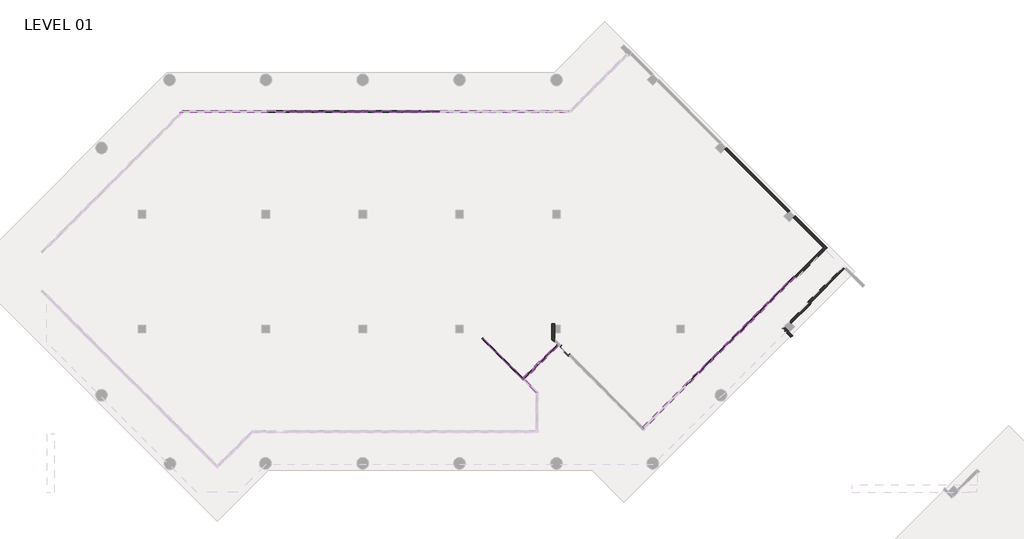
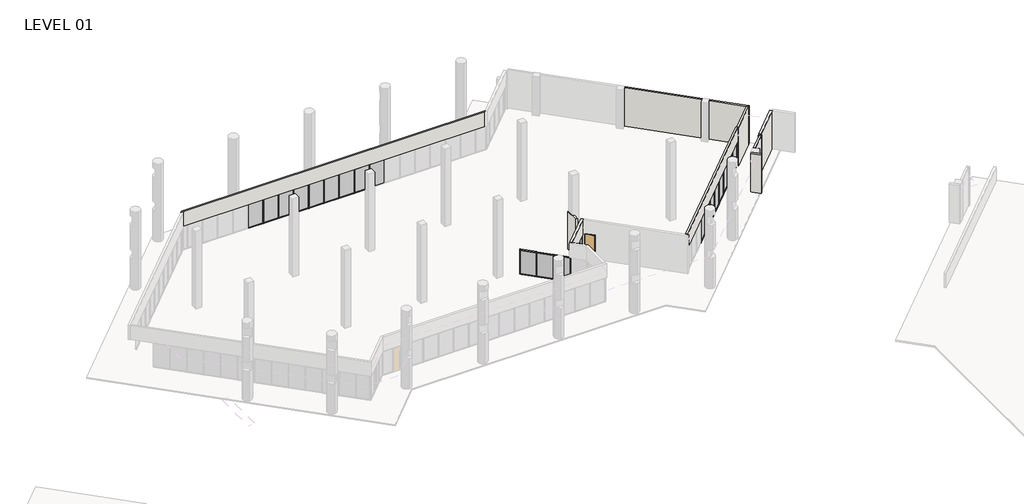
# One storey, part 13 of 24: 70 members, 23 plates, 11 walls, 2 doors.
"""IFC4 building model written with IfcOpenShell, lengths in millimetres."""

from ifc_helpers import new_model, si_unit, frame, origin, origin_with_axes, place, context, project, spatial, polyline, outline, extrude, faceted_brep, transform, mapped, element, save
from components import curtain_wall_dbl_glass_curtain_wall_dbl_glass_60f99fc0, door_25aa1bd3, member_5247f267, member_e44af9ab, member_800970d4, member_cca1f9e6, member_67d17f7f, member_d5560c68, member_35eb671e, member_74c9df78, plate_67294edd, plate_aaac5d3d, plate_5a14c350, plate_4fb64caf, plate_748a28b9, plate_d12b1ad5, plate_e3fa2cc7

model = new_model("IFC4")

# Units and contexts
model_context = context("Model", 3, world=origin())
ifc_project = project(units=[si_unit("LENGTHUNIT", "METRE", prefix="MILLI")], contexts=[model_context])

# Site, building, storey
site = spatial("IfcSite", under=ifc_project)
building = spatial("IfcBuilding", under=site)
storey = spatial("IfcBuildingStorey", under=building, Name="LEVEL 01", Elevation=0.0)

# Doors
placement = place(None, origin())
curtain_wall_dbl_glass_curtain_wall_dbl_glass_shape = curtain_wall_dbl_glass_curtain_wall_dbl_glass_60f99fc0(model_context)
element("IfcDoor", 1, ObjectType="Curtain Wall Dbl Glass : Curtain Wall Dbl Glass", at=placement, inside=storey, context=model_context, shape_type="MappedRepresentation", body=[
    mapped(curtain_wall_dbl_glass_curtain_wall_dbl_glass_shape, transform((39694.6589513, 97112.6227253, 0.0), x_axis=(0.7071067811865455, 0.7071067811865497, 0.0), y_axis=(-0.7071067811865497, 0.7071067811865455, 0.0), z_axis=(0.0, 0.0, 1.0))),
])
door_shape = door_25aa1bd3(model_context)
element("IfcDoor", 2, ObjectType="Single Flush-Full Flush-FF : 3'-0\" X 8'-6\"", at=placement, inside=storey, context=model_context, shape_type="MappedRepresentation", body=[
    mapped(door_shape, transform((41911.4780415, 98331.3349613, 0.0), x_axis=(0.7071067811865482, -0.7071067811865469, 0.0), y_axis=(0.7071067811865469, 0.7071067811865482, 0.0), z_axis=(0.0, 0.0, 1.0))),
])

# Members
member_shape = member_5247f267(model_context)
element("IfcMember", 3, ObjectType="Rectangular Mullion : 2\" x 4.5\" rectangular", at=placement, inside=storey, context=model_context, shape_type="MappedRepresentation", body=[
    mapped(member_shape, transform((29038.55, 117137.1023049, 0.0), x_axis=(0.0, 0.0, -1.0), y_axis=(0.0, 1.0, 0.0), z_axis=(1.0, 0.0, 0.0))),
])
element("IfcMember", 4, ObjectType="Rectangular Mullion : 2\" x 4.5\" rectangular", at=placement, inside=storey, context=model_context, shape_type="MappedRepresentation", body=[
    mapped(member_shape, transform((27514.55, 117137.1023049, 0.0), x_axis=(0.0, 0.0, -1.0), y_axis=(0.0, 1.0, 0.0), z_axis=(1.0, 0.0, 0.0))),
])
element("IfcMember", 5, ObjectType="Rectangular Mullion : 2\" x 4.5\" rectangular", at=placement, inside=storey, context=model_context, shape_type="MappedRepresentation", body=[
    mapped(member_shape, transform((24466.55, 117137.1023049, 0.0), x_axis=(0.0, 0.0, -1.0), y_axis=(0.0, 1.0, 0.0), z_axis=(1.0, 0.0, 0.0))),
])
element("IfcMember", 6, ObjectType="Rectangular Mullion : 2\" x 4.5\" rectangular", at=placement, inside=storey, context=model_context, shape_type="MappedRepresentation", body=[
    mapped(member_shape, transform((21418.55, 117137.1023049, 0.0), x_axis=(0.0, 0.0, -1.0), y_axis=(0.0, 1.0, 0.0), z_axis=(1.0, 0.0, 0.0))),
])
element("IfcMember", 7, ObjectType="Rectangular Mullion : 2\" x 4.5\" rectangular", at=placement, inside=storey, context=model_context, shape_type="MappedRepresentation", body=[
    mapped(member_shape, transform((58879.5979736, 103023.4447759, 0.0), x_axis=(0.0, 0.0, -1.0), y_axis=(-0.7071067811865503, 0.7071067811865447, 0.0), z_axis=(0.7071067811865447, 0.7071067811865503, 0.0))),
])
element("IfcMember", 8, ObjectType="Rectangular Mullion : 2\" x 4.5\" rectangular", at=placement, inside=storey, context=model_context, shape_type="MappedRepresentation", body=[
    mapped(member_shape, transform((55646.7353735, 99790.5821758, 0.0), x_axis=(0.0, 0.0, -1.0), y_axis=(-0.7071067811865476, 0.7071067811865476, 0.0), z_axis=(0.7071067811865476, 0.7071067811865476, 0.0))),
])
element("IfcMember", 9, ObjectType="Rectangular Mullion : 2\" x 4.5\" rectangular", at=placement, inside=storey, context=model_context, shape_type="MappedRepresentation", body=[
    mapped(member_shape, transform((53491.5035079, 97635.3503102, 0.0), x_axis=(0.0, 0.0, -1.0), y_axis=(-0.7071067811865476, 0.7071067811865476, 0.0), z_axis=(0.7071067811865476, 0.7071067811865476, 0.0))),
])
element("IfcMember", 10, ObjectType="Rectangular Mullion : 2\" x 4.5\" rectangular", at=placement, inside=storey, context=model_context, shape_type="MappedRepresentation", body=[
    mapped(member_shape, transform((52413.887575, 96557.7343774, 0.0), x_axis=(0.0, 0.0, -1.0), y_axis=(-0.7071067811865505, 0.7071067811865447, 0.0), z_axis=(0.7071067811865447, 0.7071067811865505, 0.0))),
])
element("IfcMember", 11, ObjectType="Rectangular Mullion : 2\" x 4.5\" rectangular", at=placement, inside=storey, context=model_context, shape_type="MappedRepresentation", body=[
    mapped(member_shape, transform((30562.55, 117137.1023049, 0.0), x_axis=(0.0, 0.0, -1.0), y_axis=(0.0, 1.0, 0.0), z_axis=(1.0, 0.0, 0.0))),
])
element("IfcMember", 12, ObjectType="Rectangular Mullion : 2\" x 4.5\" rectangular", at=placement, inside=storey, context=model_context, shape_type="MappedRepresentation", body=[
    mapped(member_shape, transform((25990.55, 117137.1023049, 0.0), x_axis=(0.0, 0.0, -1.0), y_axis=(0.0, 1.0, 0.0), z_axis=(1.0, 0.0, 0.0))),
])
element("IfcMember", 13, ObjectType="Rectangular Mullion : 2\" x 4.5\" rectangular", at=placement, inside=storey, context=model_context, shape_type="MappedRepresentation", body=[
    mapped(member_shape, transform((22942.55, 117137.1023049, 0.0), x_axis=(0.0, 0.0, -1.0), y_axis=(0.0, 1.0, 0.0), z_axis=(1.0, 0.0, 0.0))),
])
element("IfcMember", 14, ObjectType="Rectangular Mullion : 2\" x 4.5\" rectangular", at=placement, inside=storey, context=model_context, shape_type="MappedRepresentation", body=[
    mapped(member_shape, transform((19894.55, 117137.1023049, 0.0), x_axis=(0.0, 0.0, -1.0), y_axis=(0.0, 1.0, 0.0), z_axis=(1.0, 0.0, 0.0))),
])
element("IfcMember", 15, ObjectType="Rectangular Mullion : 2\" x 4.5\" rectangular", at=placement, inside=storey, context=model_context, shape_type="MappedRepresentation", body=[
    mapped(member_shape, transform((57801.9672391, 101945.8140414, 0.0), x_axis=(0.0, 0.0, -1.0), y_axis=(-0.7071067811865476, 0.7071067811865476, 0.0), z_axis=(0.7071067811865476, 0.7071067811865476, 0.0))),
])
element("IfcMember", 16, ObjectType="Rectangular Mullion : 2\" x 4.5\" rectangular", at=placement, inside=storey, context=model_context, shape_type="MappedRepresentation", body=[
    mapped(member_shape, transform((54569.1194407, 98712.966243, 0.0), x_axis=(0.0, 0.0, -1.0), y_axis=(-0.7071067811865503, 0.7071067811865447, 0.0), z_axis=(0.7071067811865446, 0.7071067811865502, 0.0))),
])
element("IfcMember", 17, ObjectType="Rectangular Mullion : 2\" x 4.5\" rectangular", at=placement, inside=storey, context=model_context, shape_type="MappedRepresentation", body=[
    mapped(member_shape, transform((56724.3513063, 100868.1981086, 0.0), x_axis=(0.0, 0.0, -1.0), y_axis=(-0.7071067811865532, 0.7071067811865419, 0.0), z_axis=(0.7071067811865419, 0.7071067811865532, 0.0))),
])
element("IfcMember", 18, ObjectType="Rectangular Mullion : 2\" x 4.5\" rectangular", at=placement, inside=storey, context=model_context, shape_type="MappedRepresentation", body=[
    mapped(member_shape, transform((38636.3587532, 96090.2435517, 0.0), x_axis=(0.0, 0.0, -1.0), y_axis=(0.7071067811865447, 0.7071067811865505, 0.0), z_axis=(0.7071067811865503, -0.7071067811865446, 0.0))),
])
element("IfcMember", 19, ObjectType="Rectangular Mullion : 2\" x 4.5\" rectangular", at=placement, inside=storey, context=model_context, shape_type="MappedRepresentation", body=[
    mapped(member_shape, transform((37558.7280187, 97167.8742862, 0.0), x_axis=(0.0, 0.0, -1.0), y_axis=(0.7071067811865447, 0.7071067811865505, 0.0), z_axis=(0.7071067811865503, -0.7071067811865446, 0.0))),
])
element("IfcMember", 20, ObjectType="Rectangular Mullion : 2\" x 4.5\" rectangular", at=placement, inside=storey, context=model_context, shape_type="MappedRepresentation", body=[
    mapped(member_shape, transform((29089.35, 117137.1023049, 2590.8), x_axis=(0.0, 0.0, 1.0), y_axis=(0.0, 1.0, 0.0), z_axis=(-1.0, 0.0, 0.0))),
])
element("IfcMember", 21, ObjectType="Rectangular Mullion : 2\" x 4.5\" rectangular", at=placement, inside=storey, context=model_context, shape_type="MappedRepresentation", body=[
    mapped(member_shape, transform((27565.35, 117137.1023049, 2590.8), x_axis=(0.0, 0.0, 1.0), y_axis=(0.0, 1.0, 0.0), z_axis=(-1.0, 0.0, 0.0))),
])
element("IfcMember", 22, ObjectType="Rectangular Mullion : 2\" x 4.5\" rectangular", at=placement, inside=storey, context=model_context, shape_type="MappedRepresentation", body=[
    mapped(member_shape, transform((24517.35, 117137.1023049, 2590.8), x_axis=(0.0, 0.0, 1.0), y_axis=(0.0, 1.0, 0.0), z_axis=(-1.0, 0.0, 0.0))),
])
element("IfcMember", 23, ObjectType="Rectangular Mullion : 2\" x 4.5\" rectangular", at=placement, inside=storey, context=model_context, shape_type="MappedRepresentation", body=[
    mapped(member_shape, transform((21469.35, 117137.1023049, 2590.8), x_axis=(0.0, 0.0, 1.0), y_axis=(0.0, 1.0, 0.0), z_axis=(-1.0, 0.0, 0.0))),
])
element("IfcMember", 24, ObjectType="Rectangular Mullion : 2\" x 4.5\" rectangular", at=placement, inside=storey, context=model_context, shape_type="MappedRepresentation", body=[
    mapped(member_shape, transform((55682.6563979, 99826.5032003, 2590.8), x_axis=(0.0, 0.0, 1.0), y_axis=(-0.7071067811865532, 0.7071067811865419, 0.0), z_axis=(-0.7071067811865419, -0.7071067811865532, 0.0))),
])
element("IfcMember", 25, ObjectType="Rectangular Mullion : 2\" x 4.5\" rectangular", at=placement, inside=storey, context=model_context, shape_type="MappedRepresentation", body=[
    mapped(member_shape, transform((53527.4245323, 97671.2713347, 2590.8), x_axis=(0.0, 0.0, 1.0), y_axis=(-0.7071067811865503, 0.7071067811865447, 0.0), z_axis=(-0.7071067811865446, -0.7071067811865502, 0.0))),
])
element("IfcMember", 26, ObjectType="Rectangular Mullion : 2\" x 4.5\" rectangular", at=placement, inside=storey, context=model_context, shape_type="MappedRepresentation", body=[
    mapped(member_shape, transform((52449.8085995, 96593.6554019, 2590.8), x_axis=(0.0, 0.0, 1.0), y_axis=(-0.7071067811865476, 0.7071067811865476, 0.0), z_axis=(-0.7071067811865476, -0.7071067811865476, 0.0))),
])
element("IfcMember", 27, ObjectType="Rectangular Mullion : 2\" x 4.5\" rectangular", at=placement, inside=storey, context=model_context, shape_type="MappedRepresentation", body=[
    mapped(member_shape, transform((30613.35, 117137.1023049, 2590.8), x_axis=(0.0, 0.0, 1.0), y_axis=(0.0, 1.0, 0.0), z_axis=(-1.0, 0.0, 0.0))),
])
element("IfcMember", 28, ObjectType="Rectangular Mullion : 2\" x 4.5\" rectangular", at=placement, inside=storey, context=model_context, shape_type="MappedRepresentation", body=[
    mapped(member_shape, transform((26041.35, 117137.1023049, 2590.8), x_axis=(0.0, 0.0, 1.0), y_axis=(0.0, 1.0, 0.0), z_axis=(-1.0, 0.0, 0.0))),
])
element("IfcMember", 29, ObjectType="Rectangular Mullion : 2\" x 4.5\" rectangular", at=placement, inside=storey, context=model_context, shape_type="MappedRepresentation", body=[
    mapped(member_shape, transform((22993.35, 117137.1023049, 2590.8), x_axis=(0.0, 0.0, 1.0), y_axis=(0.0, 1.0, 0.0), z_axis=(-1.0, 0.0, 0.0))),
])
element("IfcMember", 30, ObjectType="Rectangular Mullion : 2\" x 4.5\" rectangular", at=placement, inside=storey, context=model_context, shape_type="MappedRepresentation", body=[
    mapped(member_shape, transform((19945.35, 117137.1023049, 2590.8), x_axis=(0.0, 0.0, 1.0), y_axis=(0.0, 1.0, 0.0), z_axis=(-1.0, 0.0, 0.0))),
])
element("IfcMember", 31, ObjectType="Rectangular Mullion : 2\" x 4.5\" rectangular", at=placement, inside=storey, context=model_context, shape_type="MappedRepresentation", body=[
    mapped(member_shape, transform((57837.8882635, 101981.7350659, 2590.8), x_axis=(0.0, 0.0, 1.0), y_axis=(-0.7071067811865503, 0.7071067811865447, 0.0), z_axis=(-0.7071067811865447, -0.7071067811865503, 0.0))),
])
element("IfcMember", 32, ObjectType="Rectangular Mullion : 2\" x 4.5\" rectangular", at=placement, inside=storey, context=model_context, shape_type="MappedRepresentation", body=[
    mapped(member_shape, transform((54605.0404651, 98748.8872675, 2590.8), x_axis=(0.0, 0.0, 1.0), y_axis=(-0.7071067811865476, 0.7071067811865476, 0.0), z_axis=(-0.7071067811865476, -0.7071067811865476, 0.0))),
])
element("IfcMember", 33, ObjectType="Rectangular Mullion : 2\" x 4.5\" rectangular", at=placement, inside=storey, context=model_context, shape_type="MappedRepresentation", body=[
    mapped(member_shape, transform((56760.2723307, 100904.1191331, 2590.8), x_axis=(0.0, 0.0, 1.0), y_axis=(-0.7071067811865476, 0.7071067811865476, 0.0), z_axis=(-0.7071067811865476, -0.7071067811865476, 0.0))),
])
element("IfcMember", 34, ObjectType="Rectangular Mullion : 2\" x 4.5\" rectangular", at=placement, inside=storey, context=model_context, shape_type="MappedRepresentation", body=[
    mapped(member_shape, transform((36517.0183087, 98209.5839963, 2590.8), x_axis=(0.0, 0.0, 1.0), y_axis=(0.7071067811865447, 0.7071067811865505, 0.0), z_axis=(-0.7071067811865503, 0.7071067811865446, 0.0))),
])
element("IfcMember", 35, ObjectType="Rectangular Mullion : 2\" x 4.5\" rectangular", at=placement, inside=storey, context=model_context, shape_type="MappedRepresentation", body=[
    mapped(member_shape, transform((37594.6490432, 97131.9532617, 2590.8), x_axis=(0.0, 0.0, 1.0), y_axis=(0.7071067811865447, 0.7071067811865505, 0.0), z_axis=(-0.7071067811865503, 0.7071067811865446, 0.0))),
])
member_2_shape = member_e44af9ab(model_context)
element("IfcMember", 36, ObjectType="Rectangular Mullion : 2\" x 4.5\" rectangular", at=placement, inside=storey, context=model_context, shape_type="MappedRepresentation", body=[
    mapped(member_2_shape, transform((29063.95, 117137.1023049, 0.0), x_axis=(-1.0, 0.0, 0.0), y_axis=(0.0, 1.0, 0.0), z_axis=(0.0, 0.0, -1.0))),
])
element("IfcMember", 37, ObjectType="Rectangular Mullion : 2\" x 4.5\" rectangular", at=placement, inside=storey, context=model_context, shape_type="MappedRepresentation", body=[
    mapped(member_2_shape, transform((27539.95, 117137.1023049, 0.0), x_axis=(-1.0, 0.0, 0.0), y_axis=(0.0, 1.0, 0.0), z_axis=(0.0, 0.0, -1.0))),
])
element("IfcMember", 38, ObjectType="Rectangular Mullion : 2\" x 4.5\" rectangular", at=placement, inside=storey, context=model_context, shape_type="MappedRepresentation", body=[
    mapped(member_2_shape, transform((24491.95, 117137.1023049, 0.0), x_axis=(-1.0, 0.0, 0.0), y_axis=(0.0, 1.0, 0.0), z_axis=(0.0, 0.0, -1.0))),
])
element("IfcMember", 39, ObjectType="Rectangular Mullion : 2\" x 4.5\" rectangular", at=placement, inside=storey, context=model_context, shape_type="MappedRepresentation", body=[
    mapped(member_2_shape, transform((21443.95, 117137.1023049, 0.0), x_axis=(-1.0, 0.0, 0.0), y_axis=(0.0, 1.0, 0.0), z_axis=(0.0, 0.0, -1.0))),
])
element("IfcMember", 40, ObjectType="Rectangular Mullion : 2\" x 4.5\" rectangular", at=placement, inside=storey, context=model_context, shape_type="MappedRepresentation", body=[
    mapped(member_2_shape, transform((58897.5584858, 103041.4052881, 0.0), x_axis=(-0.7071067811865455, -0.7071067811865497, 0.0), y_axis=(-0.7071067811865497, 0.7071067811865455, 0.0), z_axis=(0.0, 0.0, -1.0))),
])
element("IfcMember", 41, ObjectType="Rectangular Mullion : 2\" x 4.5\" rectangular", at=placement, inside=storey, context=model_context, shape_type="MappedRepresentation", body=[
    mapped(member_2_shape, transform((55664.6958857, 99808.542688, 0.0), x_axis=(-0.7071067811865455, -0.7071067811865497, 0.0), y_axis=(-0.7071067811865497, 0.7071067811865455, 0.0), z_axis=(0.0, 0.0, -1.0))),
])
element("IfcMember", 42, ObjectType="Rectangular Mullion : 2\" x 4.5\" rectangular", at=placement, inside=storey, context=model_context, shape_type="MappedRepresentation", body=[
    mapped(member_2_shape, transform((53509.4640201, 97653.3108224, 0.0), x_axis=(-0.7071067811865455, -0.7071067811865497, 0.0), y_axis=(-0.7071067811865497, 0.7071067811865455, 0.0), z_axis=(0.0, 0.0, -1.0))),
])
element("IfcMember", 43, ObjectType="Rectangular Mullion : 2\" x 4.5\" rectangular", at=placement, inside=storey, context=model_context, shape_type="MappedRepresentation", body=[
    mapped(member_2_shape, transform((52431.8480873, 96575.6948896, 0.0), x_axis=(-0.7071067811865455, -0.7071067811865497, 0.0), y_axis=(-0.7071067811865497, 0.7071067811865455, 0.0), z_axis=(0.0, 0.0, -1.0))),
])
element("IfcMember", 44, ObjectType="Rectangular Mullion : 2\" x 4.5\" rectangular", at=placement, inside=storey, context=model_context, shape_type="MappedRepresentation", body=[
    mapped(member_2_shape, transform((30587.95, 117137.1023049, 0.0), x_axis=(-1.0, 0.0, 0.0), y_axis=(0.0, 1.0, 0.0), z_axis=(0.0, 0.0, -1.0))),
])
element("IfcMember", 45, ObjectType="Rectangular Mullion : 2\" x 4.5\" rectangular", at=placement, inside=storey, context=model_context, shape_type="MappedRepresentation", body=[
    mapped(member_2_shape, transform((26015.95, 117137.1023049, 0.0), x_axis=(-1.0, 0.0, 0.0), y_axis=(0.0, 1.0, 0.0), z_axis=(0.0, 0.0, -1.0))),
])
element("IfcMember", 46, ObjectType="Rectangular Mullion : 2\" x 4.5\" rectangular", at=placement, inside=storey, context=model_context, shape_type="MappedRepresentation", body=[
    mapped(member_2_shape, transform((22967.95, 117137.1023049, 0.0), x_axis=(-1.0, 0.0, 0.0), y_axis=(0.0, 1.0, 0.0), z_axis=(0.0, 0.0, -1.0))),
])
element("IfcMember", 47, ObjectType="Rectangular Mullion : 2\" x 4.5\" rectangular", at=placement, inside=storey, context=model_context, shape_type="MappedRepresentation", body=[
    mapped(member_2_shape, transform((19919.95, 117137.1023049, 0.0), x_axis=(-1.0, 0.0, 0.0), y_axis=(0.0, 1.0, 0.0), z_axis=(0.0, 0.0, -1.0))),
])
element("IfcMember", 48, ObjectType="Rectangular Mullion : 2\" x 4.5\" rectangular", at=placement, inside=storey, context=model_context, shape_type="MappedRepresentation", body=[
    mapped(member_2_shape, transform((57819.9277513, 101963.7745536, 0.0), x_axis=(-0.7071067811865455, -0.7071067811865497, 0.0), y_axis=(-0.7071067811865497, 0.7071067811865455, 0.0), z_axis=(0.0, 0.0, -1.0))),
])
element("IfcMember", 49, ObjectType="Rectangular Mullion : 2\" x 4.5\" rectangular", at=placement, inside=storey, context=model_context, shape_type="MappedRepresentation", body=[
    mapped(member_2_shape, transform((54587.0799529, 98730.9267552, 0.0), x_axis=(-0.7071067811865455, -0.7071067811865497, 0.0), y_axis=(-0.7071067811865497, 0.7071067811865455, 0.0), z_axis=(0.0, 0.0, -1.0))),
])
element("IfcMember", 50, ObjectType="Rectangular Mullion : 2\" x 4.5\" rectangular", at=placement, inside=storey, context=model_context, shape_type="MappedRepresentation", body=[
    mapped(member_2_shape, transform((56742.3118185, 100886.1586208, 0.0), x_axis=(-0.7071067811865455, -0.7071067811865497, 0.0), y_axis=(-0.7071067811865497, 0.7071067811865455, 0.0), z_axis=(0.0, 0.0, -1.0))),
])
element("IfcMember", 51, ObjectType="Rectangular Mullion : 2\" x 4.5\" rectangular", at=placement, inside=storey, context=model_context, shape_type="MappedRepresentation", body=[
    mapped(member_2_shape, transform((38654.3192655, 96072.2830395, 0.0), x_axis=(-0.7071067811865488, 0.7071067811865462, 0.0), y_axis=(0.7071067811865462, 0.7071067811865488, 0.0), z_axis=(0.0, 0.0, -1.0))),
])
element("IfcMember", 52, ObjectType="Rectangular Mullion : 2\" x 4.5\" rectangular", at=placement, inside=storey, context=model_context, shape_type="MappedRepresentation", body=[
    mapped(member_2_shape, transform((36499.0577964, 98227.5445085, 0.0), x_axis=(-0.7071067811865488, 0.7071067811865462, 0.0), y_axis=(0.7071067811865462, 0.7071067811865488, 0.0), z_axis=(0.0, 0.0, -1.0))),
])
element("IfcMember", 53, ObjectType="Rectangular Mullion : 2\" x 4.5\" rectangular", at=placement, inside=storey, context=model_context, shape_type="MappedRepresentation", body=[
    mapped(member_2_shape, transform((37576.6885309, 97149.913774, 0.0), x_axis=(-0.7071067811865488, 0.7071067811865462, 0.0), y_axis=(0.7071067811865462, 0.7071067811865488, 0.0), z_axis=(0.0, 0.0, -1.0))),
])
element("IfcMember", 54, ObjectType="Rectangular Mullion : 2\" x 4.5\" rectangular", at=placement, inside=storey, context=model_context, shape_type="MappedRepresentation", body=[
    mapped(member_2_shape, transform((39371.6614109, 96789.6251848, 0.0), x_axis=(0.7071067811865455, 0.7071067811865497, 0.0), y_axis=(0.7071067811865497, -0.7071067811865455, 0.0), z_axis=(0.0, 0.0, -1.0))),
])
element("IfcMember", 55, ObjectType="Rectangular Mullion : 2\" x 4.5\" rectangular", at=placement, inside=storey, context=model_context, shape_type="MappedRepresentation", body=[
    mapped(member_2_shape, transform((40664.8182923, 98082.7820663, 0.0), x_axis=(0.7071067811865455, 0.7071067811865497, 0.0), y_axis=(0.7071067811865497, -0.7071067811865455, 0.0), z_axis=(0.0, 0.0, -1.0))),
])
member_3_shape = member_800970d4(model_context)
element("IfcMember", 56, ObjectType="Rectangular Mullion : 2\" x 4.5\" rectangular", at=placement, inside=storey, context=model_context, shape_type="MappedRepresentation", body=[
    mapped(member_3_shape, transform((35421.4270619, 99305.175243, 0.0), x_axis=(-0.7071067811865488, 0.7071067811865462, 0.0), y_axis=(0.7071067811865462, 0.7071067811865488, 0.0), z_axis=(0.0, 0.0, -1.0))),
])
element("IfcMember", 57, ObjectType="Rectangular Mullion : 2\" x 4.5\" rectangular", at=placement, inside=storey, context=model_context, shape_type="MappedRepresentation", body=[
    mapped(member_3_shape, transform((41340.5825654, 98758.5463394, 0.0), x_axis=(0.7071067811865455, 0.7071067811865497, 0.0), y_axis=(0.7071067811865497, -0.7071067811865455, 0.0), z_axis=(0.0, 0.0, -1.0))),
])
element("IfcMember", 58, ObjectType="Rectangular Mullion : 2\" x 4.5\" rectangular", at=placement, inside=storey, context=model_context, shape_type="MappedRepresentation", body=[
    mapped(member_3_shape, transform((59975.263229, 104119.1100313, 2590.8), x_axis=(0.7071067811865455, 0.7071067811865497, 0.0), y_axis=(-0.7071067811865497, 0.7071067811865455, 0.0), z_axis=(0.0, 0.0, 1.0))),
])
element("IfcMember", 59, ObjectType="Rectangular Mullion : 2\" x 4.5\" rectangular", at=placement, inside=storey, context=model_context, shape_type="MappedRepresentation", body=[
    mapped(member_3_shape, transform((38694.730418, 96112.694192, 2590.8), x_axis=(-0.7071067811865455, -0.7071067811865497, 0.0), y_axis=(0.7071067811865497, -0.7071067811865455, 0.0), z_axis=(0.0, 0.0, 1.0))),
])
member_4_shape = member_cca1f9e6(model_context)
element("IfcMember", 60, ObjectType="Rectangular Mullion : 2\" x 4.5\" rectangular", at=placement, inside=storey, context=model_context, shape_type="MappedRepresentation", body=[
    mapped(member_4_shape, transform((58915.5189981, 103059.3658004, 2590.8), x_axis=(0.0, 0.0, 1.0), y_axis=(-0.7071067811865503, 0.7071067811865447, 0.0), z_axis=(-0.7071067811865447, -0.7071067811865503, 0.0))),
])
element("IfcMember", 61, ObjectType="Rectangular Mullion : 2\" x 4.5\" rectangular", at=placement, inside=storey, context=model_context, shape_type="MappedRepresentation", body=[
    mapped(member_4_shape, transform((35457.3480864, 99269.2542186, 2590.8), x_axis=(0.0, 0.0, 1.0), y_axis=(0.7071067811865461, 0.7071067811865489, 0.0), z_axis=(-0.7071067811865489, 0.7071067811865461, 0.0))),
])
element("IfcMember", 62, ObjectType="Rectangular Mullion : 2\" x 4.5\" rectangular", at=placement, inside=storey, context=model_context, shape_type="MappedRepresentation", body=[
    mapped(member_4_shape, transform((38672.2797777, 96054.3225272, 2590.8), x_axis=(0.0, 0.0, 1.0), y_axis=(0.7071067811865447, 0.7071067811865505, 0.0), z_axis=(-0.7071067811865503, 0.7071067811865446, 0.0))),
])
element("IfcMember", 63, ObjectType="Rectangular Mullion : 2\" x 4.5\" rectangular", at=placement, inside=storey, context=model_context, shape_type="MappedRepresentation", body=[
    mapped(member_4_shape, transform((59939.3422045, 104083.1890068, 0.0), x_axis=(0.0, 0.0, -1.0), y_axis=(-0.7071067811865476, 0.7071067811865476, 0.0), z_axis=(0.7071067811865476, 0.7071067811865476, 0.0))),
])
element("IfcMember", 64, ObjectType="Rectangular Mullion : 2\" x 4.5\" rectangular", at=placement, inside=storey, context=model_context, shape_type="MappedRepresentation", body=[
    mapped(member_4_shape, transform((36481.0972842, 98245.5050208, 0.0), x_axis=(0.0, 0.0, -1.0), y_axis=(0.7071067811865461, 0.7071067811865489, 0.0), z_axis=(0.7071067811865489, -0.7071067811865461, 0.0))),
])
member_5_shape = member_67d17f7f(model_context)
element("IfcMember", 65, ObjectType="Rectangular Mullion : 2\" x 4.5\" rectangular", at=placement, inside=storey, context=model_context, shape_type="MappedRepresentation", body=[
    mapped(member_5_shape, transform((41304.6615409, 98722.6253149, 2590.8), x_axis=(0.0, 0.0, 1.0), y_axis=(0.7071067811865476, -0.7071067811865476, 0.0), z_axis=(0.7071067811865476, 0.7071067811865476, 0.0))),
])
element("IfcMember", 66, ObjectType="Rectangular Mullion : 2\" x 4.5\" rectangular", at=placement, inside=storey, context=model_context, shape_type="MappedRepresentation", body=[
    mapped(member_5_shape, transform((40682.7788045, 98100.7425785, 0.0), x_axis=(0.0, 0.0, -1.0), y_axis=(0.7071067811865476, -0.7071067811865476, 0.0), z_axis=(-0.7071067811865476, -0.7071067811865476, 0.0))),
])
member_6_shape = member_d5560c68(model_context)
element("IfcMember", 67, ObjectType="Rectangular Mullion : 2\" x 4.5\" rectangular", at=placement, inside=storey, context=model_context, shape_type="MappedRepresentation", body=[
    mapped(member_6_shape, transform((38730.6514425, 96148.6152165, 0.0), x_axis=(0.0, 0.0, -1.0), y_axis=(0.7071067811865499, -0.7071067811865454, 0.0), z_axis=(-0.7071067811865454, -0.7071067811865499, 0.0))),
])
element("IfcMember", 68, ObjectType="Rectangular Mullion : 2\" x 4.5\" rectangular", at=placement, inside=storey, context=model_context, shape_type="MappedRepresentation", body=[
    mapped(member_6_shape, transform((39353.7008986, 96771.6646726, 2590.8), x_axis=(0.0, 0.0, 1.0), y_axis=(0.7071067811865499, -0.7071067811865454, 0.0), z_axis=(0.7071067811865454, 0.7071067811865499, 0.0))),
])
element("IfcMember", 69, ObjectType="Rectangular Mullion : 2\" x 4.5\" rectangular", at=placement, inside=storey, context=model_context, shape_type="MappedRepresentation", body=[
    mapped(member_2_shape, transform((40017.6564917, 97435.6202657, 0.0), x_axis=(0.7071067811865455, 0.7071067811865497, 0.0), y_axis=(0.7071067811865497, -0.7071067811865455, 0.0), z_axis=(0.0, 0.0, -1.0))),
])
member_7_shape = member_35eb671e(model_context)
element("IfcMember", 70, ObjectType="Rectangular Mullion : 2\" x 4.5\" rectangular", at=placement, inside=storey, context=model_context, shape_type="MappedRepresentation", body=[
    mapped(member_7_shape, transform((40646.8577801, 98064.821554, 2590.8), x_axis=(0.0, 0.0, 1.0), y_axis=(0.7071067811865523, -0.7071067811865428, 0.0), z_axis=(0.7071067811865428, 0.7071067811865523, 0.0))),
])
member_8_shape = member_74c9df78(model_context)
element("IfcMember", 71, ObjectType="Rectangular Mullion : 2\" x 4.5\" rectangular", at=placement, inside=storey, context=model_context, shape_type="MappedRepresentation", body=[
    mapped(member_8_shape, transform((39999.6959795, 97417.6597535, 2590.8), x_axis=(0.0, 0.0, 1.0), y_axis=(0.7071067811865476, -0.7071067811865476, 0.0), z_axis=(0.7071067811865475, 0.7071067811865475, 0.0))),
])
element("IfcMember", 72, ObjectType="Rectangular Mullion : 2\" x 4.5\" rectangular", at=placement, inside=storey, context=model_context, shape_type="MappedRepresentation", body=[
    mapped(member_7_shape, transform((40035.617004, 97453.5807779, 0.0), x_axis=(0.0, 0.0, -1.0), y_axis=(0.7071067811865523, -0.7071067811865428, 0.0), z_axis=(-0.7071067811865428, -0.7071067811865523, 0.0))),
])

# Plates
plate_shape = plate_67294edd(model_context)
element("IfcPlate", 73, ObjectType="System Panel : 1/4\" Glass", at=placement, inside=storey, context=model_context, shape_type="MappedRepresentation", body=[
    mapped(plate_shape, transform((28301.95, 117137.1023049, 50.8), x_axis=(-1.0, 0.0, 0.0), y_axis=(0.0, -1.0, 0.0), z_axis=(0.0, 0.0, 1.0))),
])
element("IfcPlate", 74, ObjectType="System Panel : 1/4\" Glass", at=placement, inside=storey, context=model_context, shape_type="MappedRepresentation", body=[
    mapped(plate_shape, transform((26777.95, 117137.1023049, 50.8), x_axis=(-1.0, 0.0, 0.0), y_axis=(0.0, -1.0, 0.0), z_axis=(0.0, 0.0, 1.0))),
])
element("IfcPlate", 75, ObjectType="System Panel : 1/4\" Glass", at=placement, inside=storey, context=model_context, shape_type="MappedRepresentation", body=[
    mapped(plate_shape, transform((23729.95, 117137.1023049, 50.8), x_axis=(-1.0, 0.0, 0.0), y_axis=(0.0, -1.0, 0.0), z_axis=(0.0, 0.0, 1.0))),
])
element("IfcPlate", 76, ObjectType="System Panel : 1/4\" Glass", at=placement, inside=storey, context=model_context, shape_type="MappedRepresentation", body=[
    mapped(plate_shape, transform((20681.95, 117137.1023049, 50.8), x_axis=(-1.0, 0.0, 0.0), y_axis=(0.0, -1.0, 0.0), z_axis=(0.0, 0.0, 1.0))),
])
element("IfcPlate", 77, ObjectType="System Panel : 1/4\" Glass", at=placement, inside=storey, context=model_context, shape_type="MappedRepresentation", body=[
    mapped(plate_shape, transform((58358.7431186, 102502.5899209, 50.8), x_axis=(-0.7071067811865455, -0.7071067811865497, 0.0), y_axis=(0.7071067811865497, -0.7071067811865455, 0.0), z_axis=(0.0, 0.0, 1.0))),
])
element("IfcPlate", 78, ObjectType="System Panel : 1/4\" Glass", at=placement, inside=storey, context=model_context, shape_type="MappedRepresentation", body=[
    mapped(plate_shape, transform((51893.03272, 96036.8795223, 50.8), x_axis=(-0.7071067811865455, -0.7071067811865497, 0.0), y_axis=(0.7071067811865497, -0.7071067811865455, 0.0), z_axis=(0.0, 0.0, 1.0))),
])
element("IfcPlate", 79, ObjectType="System Panel : 1/4\" Glass", at=placement, inside=storey, context=model_context, shape_type="MappedRepresentation", body=[
    mapped(plate_shape, transform((31349.95, 117137.1023049, 50.8), x_axis=(-1.0, 0.0, 0.0), y_axis=(0.0, -1.0, 0.0), z_axis=(0.0, 0.0, 1.0))),
])
element("IfcPlate", 80, ObjectType="System Panel : 1/4\" Glass", at=placement, inside=storey, context=model_context, shape_type="MappedRepresentation", body=[
    mapped(plate_shape, transform((29825.95, 117137.1023049, 50.8), x_axis=(-1.0, 0.0, 0.0), y_axis=(0.0, -1.0, 0.0), z_axis=(0.0, 0.0, 1.0))),
])
element("IfcPlate", 81, ObjectType="System Panel : 1/4\" Glass", at=placement, inside=storey, context=model_context, shape_type="MappedRepresentation", body=[
    mapped(plate_shape, transform((25253.95, 117137.1023049, 50.8), x_axis=(-1.0, 0.0, 0.0), y_axis=(0.0, -1.0, 0.0), z_axis=(0.0, 0.0, 1.0))),
])
element("IfcPlate", 82, ObjectType="System Panel : 1/4\" Glass", at=placement, inside=storey, context=model_context, shape_type="MappedRepresentation", body=[
    mapped(plate_shape, transform((22205.95, 117137.1023049, 50.8), x_axis=(-1.0, 0.0, 0.0), y_axis=(0.0, -1.0, 0.0), z_axis=(0.0, 0.0, 1.0))),
])
element("IfcPlate", 83, ObjectType="System Panel : 1/4\" Glass", at=placement, inside=storey, context=model_context, shape_type="MappedRepresentation", body=[
    mapped(plate_shape, transform((19157.95, 117137.1023049, 50.8), x_axis=(-1.0, 0.0, 0.0), y_axis=(0.0, -1.0, 0.0), z_axis=(0.0, 0.0, 1.0))),
])
element("IfcPlate", 84, ObjectType="System Panel : 1/4\" Glass", at=placement, inside=storey, context=model_context, shape_type="MappedRepresentation", body=[
    mapped(plate_shape, transform((38115.5038982, 96611.0984067, 50.8), x_axis=(-0.7071067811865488, 0.7071067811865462, 0.0), y_axis=(-0.7071067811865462, -0.7071067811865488, 0.0), z_axis=(0.0, 0.0, 1.0))),
])
element("IfcPlate", 85, ObjectType="System Panel : 1/4\" Glass", at=placement, inside=storey, context=model_context, shape_type="MappedRepresentation", body=[
    mapped(plate_shape, transform((37037.8731637, 97688.7291412, 50.8), x_axis=(-0.7071067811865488, 0.7071067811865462, 0.0), y_axis=(-0.7071067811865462, -0.7071067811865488, 0.0), z_axis=(0.0, 0.0, 1.0))),
])
plate_2_shape = plate_aaac5d3d(model_context)
element("IfcPlate", 86, ObjectType="System Panel : 1/4\" Glass", at=placement, inside=storey, context=model_context, shape_type="MappedRepresentation", body=[
    mapped(plate_2_shape, transform((55125.8879193, 99269.7347216, 50.8), x_axis=(-0.7071067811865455, -0.7071067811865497, 0.0), y_axis=(0.7071067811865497, -0.7071067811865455, 0.0), z_axis=(0.0, 0.0, 1.0))),
])
element("IfcPlate", 87, ObjectType="System Panel : 1/4\" Glass", at=placement, inside=storey, context=model_context, shape_type="MappedRepresentation", body=[
    mapped(plate_2_shape, transform((52970.6560537, 97114.502856, 50.8), x_axis=(-0.7071067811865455, -0.7071067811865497, 0.0), y_axis=(0.7071067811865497, -0.7071067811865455, 0.0), z_axis=(0.0, 0.0, 1.0))),
])
element("IfcPlate", 88, ObjectType="System Panel : 1/4\" Glass", at=placement, inside=storey, context=model_context, shape_type="MappedRepresentation", body=[
    mapped(plate_2_shape, transform((57281.1197849, 101424.9665872, 50.8), x_axis=(-0.7071067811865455, -0.7071067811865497, 0.0), y_axis=(0.7071067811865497, -0.7071067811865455, 0.0), z_axis=(0.0, 0.0, 1.0))),
])
element("IfcPlate", 89, ObjectType="System Panel : 1/4\" Glass", at=placement, inside=storey, context=model_context, shape_type="MappedRepresentation", body=[
    mapped(plate_2_shape, transform((54048.2719865, 98192.1187888, 50.8), x_axis=(-0.7071067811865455, -0.7071067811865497, 0.0), y_axis=(0.7071067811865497, -0.7071067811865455, 0.0), z_axis=(0.0, 0.0, 1.0))),
])
element("IfcPlate", 90, ObjectType="System Panel : 1/4\" Glass", at=placement, inside=storey, context=model_context, shape_type="MappedRepresentation", body=[
    mapped(plate_2_shape, transform((56203.5038521, 100347.3506544, 50.8), x_axis=(-0.7071067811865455, -0.7071067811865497, 0.0), y_axis=(0.7071067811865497, -0.7071067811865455, 0.0), z_axis=(0.0, 0.0, 1.0))),
])
plate_3_shape = plate_5a14c350(model_context)
element("IfcPlate", 91, ObjectType="System Panel : 1/4\" Glass", at=placement, inside=storey, context=model_context, shape_type="MappedRepresentation", body=[
    mapped(plate_3_shape, transform((35969.2226853, 98757.3796197, 50.8), x_axis=(-0.7071067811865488, 0.7071067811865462, 0.0), y_axis=(-0.7071067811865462, -0.7071067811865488, 0.0), z_axis=(0.0, 0.0, 1.0))),
])
plate_4_shape = plate_4fb64caf(model_context)
element("IfcPlate", 92, ObjectType="System Panel : 1/4\" Glass", at=placement, inside=storey, context=model_context, shape_type="MappedRepresentation", body=[
    mapped(plate_4_shape, transform((39042.1761706, 96460.1399445, 50.8), x_axis=(0.7071067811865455, 0.7071067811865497, 0.0), y_axis=(-0.7071067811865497, 0.7071067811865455, 0.0), z_axis=(0.0, 0.0, 1.0))),
])
plate_5_shape = plate_748a28b9(model_context)
element("IfcPlate", 93, ObjectType="System Panel : 1/4\" Glass", at=placement, inside=storey, context=model_context, shape_type="MappedRepresentation", body=[
    mapped(plate_5_shape, transform((40993.7201727, 98411.6839467, 50.8), x_axis=(0.7071067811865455, 0.7071067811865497, 0.0), y_axis=(-0.7071067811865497, 0.7071067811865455, 0.0), z_axis=(0.0, 0.0, 1.0))),
])
plate_6_shape = plate_d12b1ad5(model_context)
element("IfcPlate", 94, ObjectType="System Panel : 1/4\" Glass", at=placement, inside=storey, context=model_context, shape_type="MappedRepresentation", body=[
    mapped(plate_6_shape, transform((59427.4306013, 103571.2774036, 50.8), x_axis=(-0.7071067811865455, -0.7071067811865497, 0.0), y_axis=(0.7071067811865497, -0.7071067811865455, 0.0), z_axis=(0.0, 0.0, 1.0))),
])
plate_7_shape = plate_e3fa2cc7(model_context)
element("IfcPlate", 95, ObjectType="System Panel : 1/4\" Glass", at=placement, inside=storey, context=model_context, shape_type="MappedRepresentation", body=[
    mapped(plate_7_shape, transform((40341.237392, 97759.201166, 50.8), x_axis=(0.7071067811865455, 0.7071067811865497, 0.0), y_axis=(-0.7071067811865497, 0.7071067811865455, 0.0), z_axis=(0.0, 0.0, 1.0))),
])

# Walls
element("IfcWall", 96, ObjectType="01-MASONRY-8", at=placement, inside=storey, context=model_context, shape_type="SweptSolid", body=[
    extrude(outline(polyline([(54659.0562693, 114304.0062804), (59615.9789755, 109347.0835743), (59472.2948776, 109203.3994763), (54515.3721714, 114160.3221825), (54659.0562693, 114304.0062804)])), origin_with_axes(), (0.0, 0.0, 1.0), 4089.4),
])
element("IfcWall", 97, ObjectType="01-MASONRY-8", at=placement, inside=storey, context=model_context, shape_type="Brep", body=[
    faceted_brep([(59903.3471714, 108772.3471825, 0.0), (62260.6644032, 106415.0299507, 0.0), (62404.3485011, 106271.3458528, 0.0), (62404.3485011, 106271.3458528, 4089.4), (62260.6644032, 106415.0299507, 4089.4), (59903.3471714, 108772.3471825, 4089.4), (60047.0312693, 108916.0312804, 0.0), (60047.0312693, 108916.0312804, 4089.4), (62548.032599, 106415.0299507, 4089.4), (62548.032599, 106415.0299507, 0.0), (60011.1102448, 108880.110256, 0.0)], [[[0, 1, 2, 3, 4, 5]], [[6, 7, 8, 9]], [[2, 1, 0, 10, 6, 9]], [[5, 4, 3, 8, 7]], [[0, 5, 7, 6, 10]], [[3, 2, 9, 8]]]),
])
element("IfcWall", 98, ObjectType="01-MASONRY-8", at=placement, inside=storey, context=model_context, shape_type="SweptSolid", body=[
    extrude(outline(polyline([(59969.9298477, 104124.2953953), (62260.6644032, 106415.0299507), (62404.3485011, 106271.3458528), (60113.6139457, 103980.6112974), (59969.9298477, 104124.2953953)])), origin_with_axes(), (0.0, 0.0, 1.0), 4089.4),
])
element("IfcWall", 99, ObjectType="01-MASONRY-8", at=placement, inside=storey, context=model_context, shape_type="SweptSolid", body=[
    extrude(outline(polyline([(61116.4509923, 102242.9317379), (63774.6068041, 104901.0875498), (63918.2909021, 104757.4034518), (61260.1350902, 102099.24764), (61116.4509923, 102242.9317379)])), origin_with_axes(), (0.0, 0.0, 1.0), 4089.4),
])
element("IfcWall", 100, ObjectType="01-MASONRY-8", at=placement, inside=storey, context=model_context, shape_type="Brep", body=[
    faceted_brep([(60972.7668944, 102099.24764, 0.0), (61026.6484311, 102045.3661033, 0.0), (61170.332529, 101901.6820053, 0.0), (61170.332529, 101901.6820053, 4089.4), (61026.6484311, 102045.3661033, 4089.4), (60972.7668944, 102099.24764, 4089.4), (61116.4509923, 102242.9317379, 0.0), (61116.4509923, 102242.9317379, 4089.4), (61260.1350902, 102099.24764, 4089.4), (61314.016627, 102045.3661033, 4089.4), (61314.016627, 102045.3661033, 0.0), (61260.1350902, 102099.24764, 0.0)], [[[0, 1, 2, 3, 4, 5]], [[6, 7, 8, 9, 10, 11]], [[2, 1, 0, 6, 11, 10]], [[5, 4, 3, 9, 8, 7]], [[0, 5, 7, 6]], [[3, 2, 10, 9]]]),
])
element("IfcWall", 101, ObjectType="01-MASONRY-8", at=placement, inside=storey, context=model_context, shape_type="SweptSolid", body=[
    extrude(outline(polyline([(59598.0184633, 100616.7361355), (61026.6484311, 102045.3661033), (61170.332529, 101901.6820053), (59741.7025612, 100473.0520375), (59598.0184633, 100616.7361355)])), origin_with_axes(), (0.0, 0.0, 1.0), 4089.4),
])
element("IfcWall", 102, ObjectType="01-MASONRY-8", at=placement, inside=storey, context=model_context, shape_type="SweptSolid", body=[
    extrude(outline(polyline([(59695.8826836, 99369.3991316), (59023.2820715, 100041.9997437), (59166.9661695, 100185.6838416), (59839.5667816, 99513.0832295), (59695.8826836, 99369.3991316)])), origin_with_axes(), (0.0, 0.0, 1.0), 4089.4),
])
element("IfcWall", 103, ObjectType="8\" Existing Wall", at=placement, inside=storey, context=model_context, shape_type="Brep", body=[
    faceted_brep([(41109.9, 98989.2289048, 0.0), (41109.9, 99276.5971007, 0.0), (41109.9, 99719.0523049, 0.0), (41109.9, 100328.6523049, 0.0), (41109.9, 100428.3130027, 0.0), (41109.9, 100428.3130027, 4013.2), (41109.9, 100328.6523049, 4013.2), (41109.9, 99719.0523049, 4013.2), (41109.9, 99276.5971007, 4013.2), (41109.9, 98989.2289048, 4013.2), (40906.7, 99192.4289048, 0.0), (40906.7, 99192.4289048, 4013.2), (40906.7, 100428.3130027, 4013.2), (40906.7, 100428.3130027, 0.0)], [[[0, 1, 2, 3, 4, 5, 6, 7, 8, 9]], [[10, 11, 12, 13]], [[4, 3, 2, 1, 0, 10, 13]], [[5, 4, 13, 12]], [[9, 8, 7, 6, 5, 12, 11]], [[0, 9, 11, 10]]]),
])
element("IfcWall", 104, ObjectType="8\" Existing Wall", at=placement, inside=storey, context=model_context, shape_type="Brep", body=[
    faceted_brep([(42287.0103995, 117238.7023049, 2590.8), (11807.0103995, 117238.7023049, 2590.8), (11807.0103995, 117238.7023049, 4089.4), (42287.0103995, 117238.7023049, 4089.4), (42083.8103995, 117035.5023049, 2590.8), (42083.8103995, 117035.5023049, 4089.4), (11891.1785953, 117035.5023049, 4089.4), (11603.8103995, 117035.5023049, 4089.4), (11603.8103995, 117035.5023049, 2590.8), (11891.1785953, 117035.5023049, 2590.8)], [[[0, 1, 2, 3]], [[4, 5, 6, 7, 8, 9]], [[1, 0, 4, 9, 8]], [[3, 2, 7, 6, 5]], [[0, 3, 5, 4]], [[2, 1, 8, 7]]]),
])
element("IfcWall", 105, ObjectType="8\" Existing Wall", at=placement, inside=storey, context=model_context, shape_type="SweptSolid", body=[
    extrude(outline(polyline([(41412.4246144, 98686.7042904), (38798.0033634, 96072.2830395), (38654.3192655, 96215.9671374), (41268.7405164, 98830.3883884), (41412.4246144, 98686.7042904)])), frame((0.0, 0.0, 2590.8), z_axis=(0.0, 0.0, 1.0), x_axis=(1.0, 0.0, 0.0)), (0.0, 0.0, 1.0), 1498.6),
])
element("IfcWall", 106, ObjectType="8\" Existing Wall", at=placement, inside=storey, context=model_context, shape_type="SweptSolid", body=[
    extrude(outline(polyline([(60047.105278, 104047.2679823), (48193.1671981, 92193.3299025), (48049.4831002, 92337.0140005), (59903.42118, 104190.9520803), (60047.105278, 104047.2679823)])), frame((0.0, 0.0, 2590.8), z_axis=(0.0, 0.0, 1.0), x_axis=(1.0, 0.0, 0.0)), (0.0, 0.0, 1.0), 1498.6),
])

save(model, "model.ifc")
